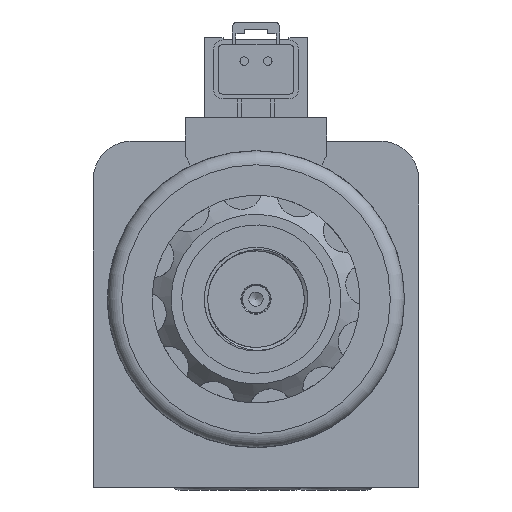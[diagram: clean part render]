
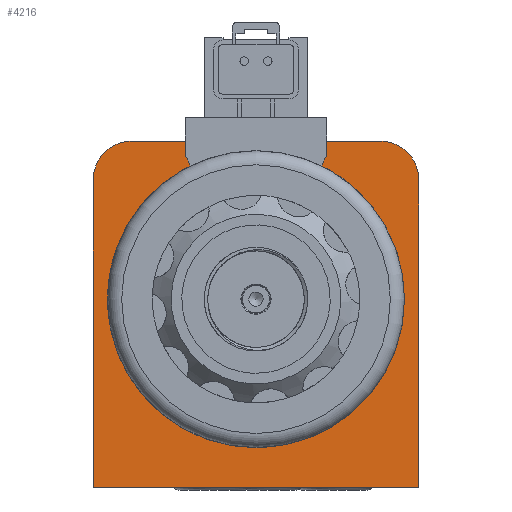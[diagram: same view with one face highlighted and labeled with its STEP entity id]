
A CAD part, left-side view. The second image highlights one B-rep face of the part: STEP entity #4216.
In plain terms, the highlighted planar face has unit normal (-1, 0, 0).
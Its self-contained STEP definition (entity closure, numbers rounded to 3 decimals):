
#658=LINE('',#16959,#1359);
#671=LINE('',#16991,#1372);
#692=LINE('',#17078,#1393);
#693=LINE('',#17080,#1394);
#701=LINE('',#17118,#1402);
#1359=VECTOR('',#13783,1.);
#1372=VECTOR('',#13798,1.);
#1393=VECTOR('',#13851,1.);
#1394=VECTOR('',#13852,1.);
#1402=VECTOR('',#13894,1.);
#3672=PLANE('',#12576);
#4216=ADVANCED_FACE('',(#4959,#4960),#3672,.T.);
#4959=FACE_BOUND('',#5497,.T.);
#4960=FACE_BOUND('',#5498,.T.);
#5497=EDGE_LOOP('',(#6621,#6622,#6623,#6624,#6625,#6626,#6627));
#5498=EDGE_LOOP('',(#6628));
#6621=ORIENTED_EDGE('',*,*,#10619,.F.);
#6622=ORIENTED_EDGE('',*,*,#10618,.F.);
#6623=ORIENTED_EDGE('',*,*,#10635,.T.);
#6624=ORIENTED_EDGE('',*,*,#10566,.F.);
#6625=ORIENTED_EDGE('',*,*,#10639,.T.);
#6626=ORIENTED_EDGE('',*,*,#10580,.T.);
#6627=ORIENTED_EDGE('',*,*,#10636,.T.);
#6628=ORIENTED_EDGE('',*,*,#10640,.T.);
#9494=VERTEX_POINT('',#16958);
#9495=VERTEX_POINT('',#16960);
#9508=VERTEX_POINT('',#16990);
#9509=VERTEX_POINT('',#16992);
#9543=VERTEX_POINT('',#17077);
#9544=VERTEX_POINT('',#17079);
#9545=VERTEX_POINT('',#17081);
#9558=VERTEX_POINT('',#17120);
#10566=EDGE_CURVE('',#9494,#9495,#658,.T.);
#10580=EDGE_CURVE('',#9509,#9508,#671,.T.);
#10618=EDGE_CURVE('',#9543,#9544,#692,.T.);
#10619=EDGE_CURVE('',#9544,#9545,#693,.T.);
#10635=EDGE_CURVE('',#9543,#9495,#12037,.T.);
#10636=EDGE_CURVE('',#9508,#9545,#12038,.T.);
#10639=EDGE_CURVE('',#9494,#9509,#701,.T.);
#10640=EDGE_CURVE('',#9558,#9558,#12041,.T.);
#12037=CIRCLE('',#12568,8.);
#12038=CIRCLE('',#12570,8.);
#12041=CIRCLE('',#12575,16.5);
#12568=AXIS2_PLACEMENT_3D('',#17111,#13880,#13881);
#12570=AXIS2_PLACEMENT_3D('',#17113,#13884,#13885);
#12575=AXIS2_PLACEMENT_3D('',#17119,#13895,#13896);
#12576=AXIS2_PLACEMENT_3D('',#17121,#13897,#13898);
#13783=DIRECTION('',(0.,0.,1.));
#13798=DIRECTION('',(0.,0.,1.));
#13851=DIRECTION('',(0.,-1.,0.));
#13852=DIRECTION('',(0.,-1.,0.));
#13880=DIRECTION('',(-1.,0.,0.));
#13881=DIRECTION('',(0.,0.,1.));
#13884=DIRECTION('',(-1.,0.,0.));
#13885=DIRECTION('',(0.,0.,1.));
#13894=DIRECTION('',(0.,-1.,0.));
#13895=DIRECTION('',(1.,0.,0.));
#13896=DIRECTION('',(0.,0.,1.));
#13897=DIRECTION('',(-1.,0.,0.));
#13898=DIRECTION('',(0.,0.,-1.));
#16958=CARTESIAN_POINT('',(194.81,231.644,-73.5));
#16959=CARTESIAN_POINT('',(194.81,231.644,-120.));
#16960=CARTESIAN_POINT('',(194.81,231.644,-7.971));
#16990=CARTESIAN_POINT('',(194.81,162.644,-8.));
#16991=CARTESIAN_POINT('',(194.81,162.644,-120.));
#16992=CARTESIAN_POINT('',(194.81,162.644,-73.5));
#17077=CARTESIAN_POINT('',(194.81,223.644,0.));
#17078=CARTESIAN_POINT('',(194.81,231.134,0.));
#17079=CARTESIAN_POINT('',(194.81,213.145,0.));
#17080=CARTESIAN_POINT('',(194.81,167.644,0.));
#17081=CARTESIAN_POINT('',(194.81,170.644,0.));
#17111=CARTESIAN_POINT('',(194.81,223.644,-8.));
#17113=CARTESIAN_POINT('',(194.81,170.644,-8.));
#17118=CARTESIAN_POINT('',(194.81,231.134,-73.5));
#17119=CARTESIAN_POINT('',(194.81,197.144,-33.5));
#17120=CARTESIAN_POINT('',(194.81,197.144,-17.));
#17121=CARTESIAN_POINT('',(194.81,231.134,-120.));
